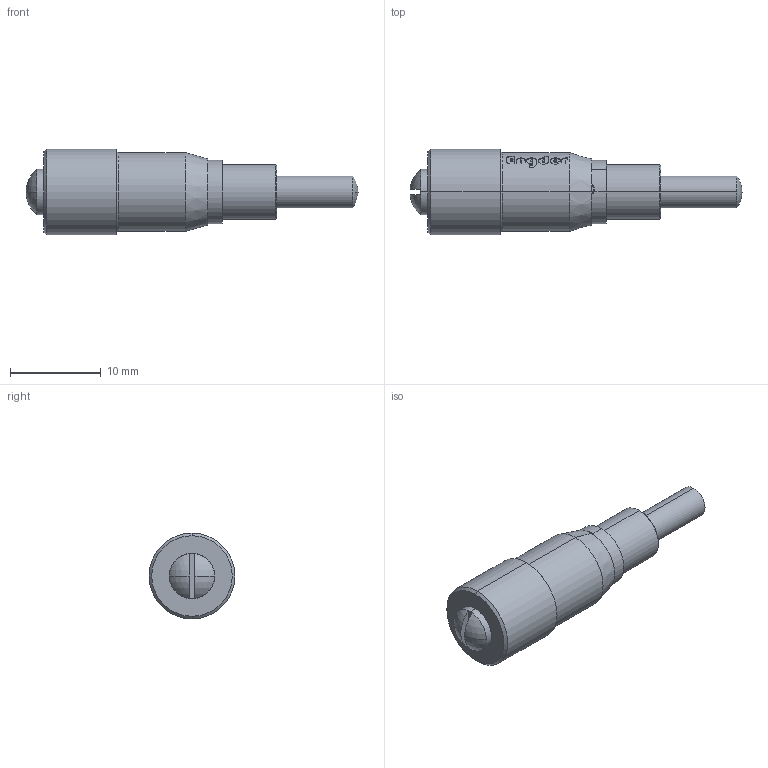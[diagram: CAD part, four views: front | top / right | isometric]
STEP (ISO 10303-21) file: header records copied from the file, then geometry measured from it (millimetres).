
FILE_DESCRIPTION (( 'STEP AP203' ), '1' );
FILE_NAME ('MT6.5-3_customer.STEP', '2019-02-13T12:11:03', ( 'User' ), ( 'No' ), 'SwSTEP 2.0', 'SolidWorks 2012', '' );
FILE_SCHEMA (( 'CONFIG_CONTROL_DESIGN' ));
Length unit declared in the file: millimetre
Products named in the file (3): MT6.5-3_b; MT6.5-3_a_customer; MT6.5-3_customer
Assembly tree (2 placements, depth 2):
  MT6.5-3_customer
    MT6.5-3_b
    MT6.5-3_a_customer
Bounding box: 36.69 x 9.5 x 9.5 mm (x, y, z)
Volume: 1375 mm3; surface area: 2099 mm2
Topology: 2 solids, 2 shells, 239 faces, 608 edges, 401 vertices
Faces by surface type: plane 105, bspline 68, cylinder 50, cone 8, sphere 6, torus 2
Entity records: 12054 total; most frequent: CARTESIAN_POINT 6462, ORIENTED_EDGE 1216, DIRECTION 896, EDGE_CURVE 608, VERTEX_POINT 401, AXIS2_PLACEMENT_3D 346, EDGE_LOOP 269, FACE_OUTER_BOUND 239
